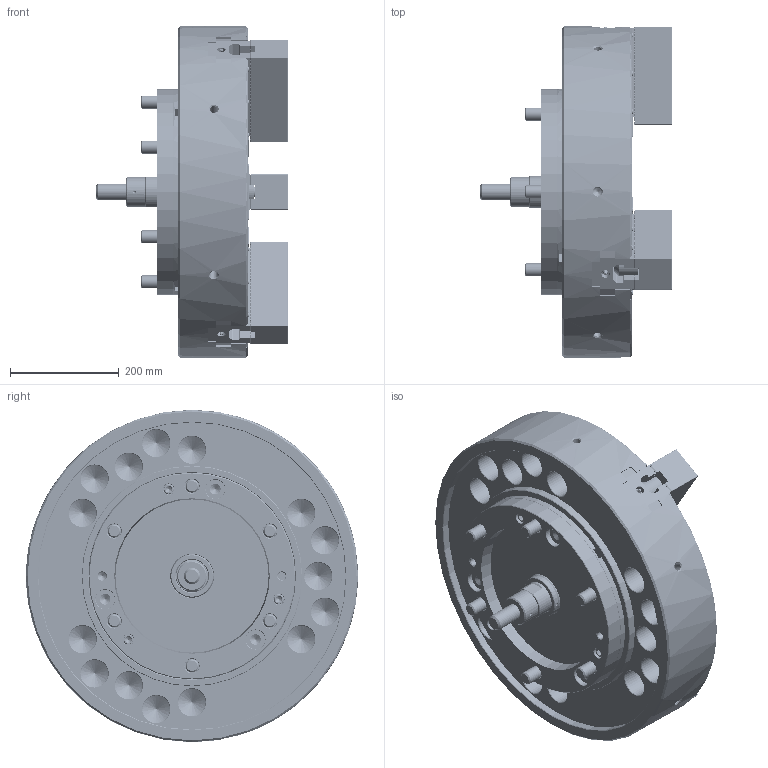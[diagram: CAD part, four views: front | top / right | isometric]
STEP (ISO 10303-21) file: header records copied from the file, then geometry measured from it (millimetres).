
FILE_DESCRIPTION (( 'STEP AP214' ), '1' );
FILE_NAME ('DT1_NV24C15_OUTSIDE_VIEW_UC.STEP', '2026-03-24T04:58:11', ( '' ), ( '' ), 'SwSTEP 2.0', 'SolidWorks 2022', '' );
FILE_SCHEMA (( 'AUTOMOTIVE_DESIGN' ));
Length unit declared in the file: millimetre
Products named in the file (18): DT1_NV24C15_COVER^DT1_NV24C1500; DT1_NV24C15_DN^DT1_NV24C1500; DT1_NV24C15_TNUT^DT1_NV24C1500; DT1_NV24C15_ORING^DT1_NV24C1500; DT1_NV24C15_P80^DT1_NV24C1500_円筒用; DT1_NV24C15_M12x55^DT1_NV24C1500; DT1_NV24C15_M24x160^DT1_NV24C1500; DT1_NV24C15_SOFTJAW^DT1_NV24C1500; DT1_NV24C15_M6x12^DT1_NV24C1500; DT1_NV24C15_M20x60^DT1_NV24C1500; DT1_NV24C15_COVERFOOTER^DT1_NV24C1500; DT1_NV24C15_DRAWSCREW^DT1_NV24C1500; Copy of 61P321208^DT1_NV24C1500; DT1_NV24C15_OUTSIDE_VIEW_UC; DT1_NV24C15_S39^DT1_NV24C1500_円筒用; DT1_NV24C15_BASE^DT1_NV24C1500; DT1_NV24C15_BP^DT1_NV24C1500; DT1_NV24C15_CAP^DT1_NV24C1500
Assembly tree (48 placements, depth 2):
  DT1_NV24C15_OUTSIDE_VIEW_UC
    DT1_NV24C15_SOFTJAW^DT1_NV24C1500  x3
    DT1_NV24C15_TNUT^DT1_NV24C1500  x6
    DT1_NV24C15_COVER^DT1_NV24C1500
    DT1_NV24C15_DRAWSCREW^DT1_NV24C1500
    Copy of 61P321208^DT1_NV24C1500
    DT1_NV24C15_COVERFOOTER^DT1_NV24C1500
    DT1_NV24C15_M6x12^DT1_NV24C1500  x6
    DT1_NV24C15_M12x55^DT1_NV24C1500  x3
    DT1_NV24C15_M20x60^DT1_NV24C1500  x6
    DT1_NV24C15_M24x160^DT1_NV24C1500  x6
    DT1_NV24C15_S39^DT1_NV24C1500_円筒用
    DT1_NV24C15_P80^DT1_NV24C1500_円筒用
    DT1_NV24C15_CAP^DT1_NV24C1500  x6
    DT1_NV24C15_ORING^DT1_NV24C1500  x3
    DT1_NV24C15_DN^DT1_NV24C1500
    DT1_NV24C15_BP^DT1_NV24C1500
    DT1_NV24C15_BASE^DT1_NV24C1500
Bounding box: 352 x 610 x 610 mm (x, y, z)
Volume: 37056587.4 mm3; surface area: 2398567.9 mm2
Topology: 48 solids, 102 shells, 9641 faces, 26777 edges, 17435 vertices
Faces by surface type: plane 5626, cylinder 1906, bspline 1005, cone 962, torus 136, sphere 6
Entity records: 274062 total; most frequent: CARTESIAN_POINT 87285, ORIENTED_EDGE 41738, DIRECTION 33584, EDGE_CURVE 20869, VECTOR 14564, LINE 14564, VERTEX_POINT 13689, AXIS2_PLACEMENT_3D 9510
